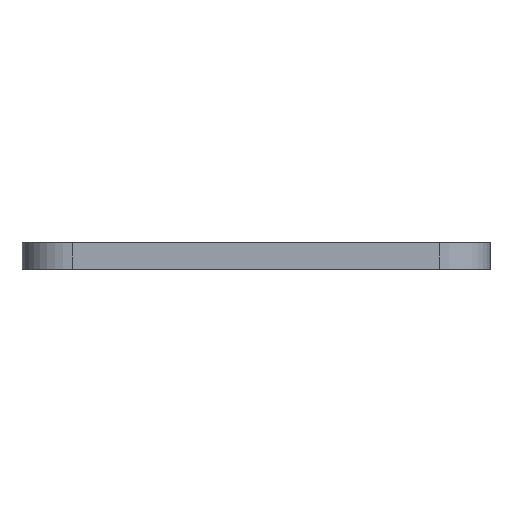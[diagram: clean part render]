
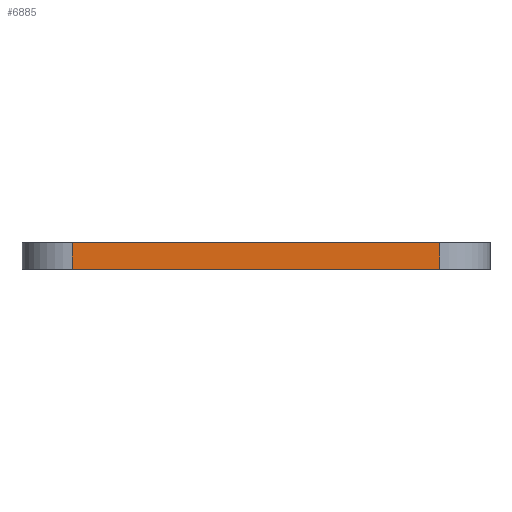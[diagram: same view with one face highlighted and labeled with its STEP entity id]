
A CAD part, front view. The second image highlights one B-rep face of the part: STEP entity #6885.
In plain terms, the highlighted planar face has unit normal (0, -1, 0).
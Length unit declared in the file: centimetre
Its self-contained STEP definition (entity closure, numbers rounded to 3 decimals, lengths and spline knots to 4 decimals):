
#2128=ORIENTED_EDGE('',*,*,#3027,.T.);
#2129=ORIENTED_EDGE('',*,*,#3098,.T.);
#2130=ORIENTED_EDGE('',*,*,#2209,.F.);
#2131=ORIENTED_EDGE('',*,*,#3099,.F.);
#2209=EDGE_CURVE('',#3147,#3148,#3772,.T.);
#3027=EDGE_CURVE('',#3710,#3709,#4443,.T.);
#3098=EDGE_CURVE('',#3709,#3148,#4488,.T.);
#3099=EDGE_CURVE('',#3710,#3147,#4489,.T.);
#3147=VERTEX_POINT('',#10105);
#3148=VERTEX_POINT('',#10107);
#3709=VERTEX_POINT('',#11767);
#3710=VERTEX_POINT('',#11769);
#3772=LINE('',#10106,#4524);
#4443=LINE('',#11768,#5195);
#4488=LINE('',#11933,#5240);
#4489=LINE('',#11935,#5241);
#4524=VECTOR('',#8241,100.);
#5195=VECTOR('',#9770,100.);
#5240=VECTOR('',#9995,100.);
#5241=VECTOR('',#9998,100.);
#5691=EDGE_LOOP('',(#2128,#2129,#2130,#2131));
#6145=FACE_BOUND('',#5691,.T.);
#6414=PLANE('',#8172);
#6885=ADVANCED_FACE('',(#6145),#6414,.T.);
#8172=AXIS2_PLACEMENT_3D('',#11934,#9996,#9997);
#8241=DIRECTION('',(1.,0.,0.));
#9770=DIRECTION('',(1.,0.,0.));
#9995=DIRECTION('',(0.,0.,1.));
#9996=DIRECTION('',(0.,-1.,0.));
#9997=DIRECTION('',(1.,0.,0.));
#9998=DIRECTION('',(0.,0.,1.));
#10105=CARTESIAN_POINT('',(-0.7228,0.3776,0.1744));
#10106=CARTESIAN_POINT('',(-0.7228,0.3776,0.1744));
#10107=CARTESIAN_POINT('',(0.6742,0.3776,0.1744));
#11767=CARTESIAN_POINT('',(0.6742,0.3776,0.0744));
#11768=CARTESIAN_POINT('',(-0.7228,0.3776,0.0744));
#11769=CARTESIAN_POINT('',(-0.7228,0.3776,0.0744));
#11933=CARTESIAN_POINT('',(0.6742,0.3776,0.0744));
#11934=CARTESIAN_POINT('',(-0.7228,0.3776,0.0744));
#11935=CARTESIAN_POINT('',(-0.7228,0.3776,0.0744));
